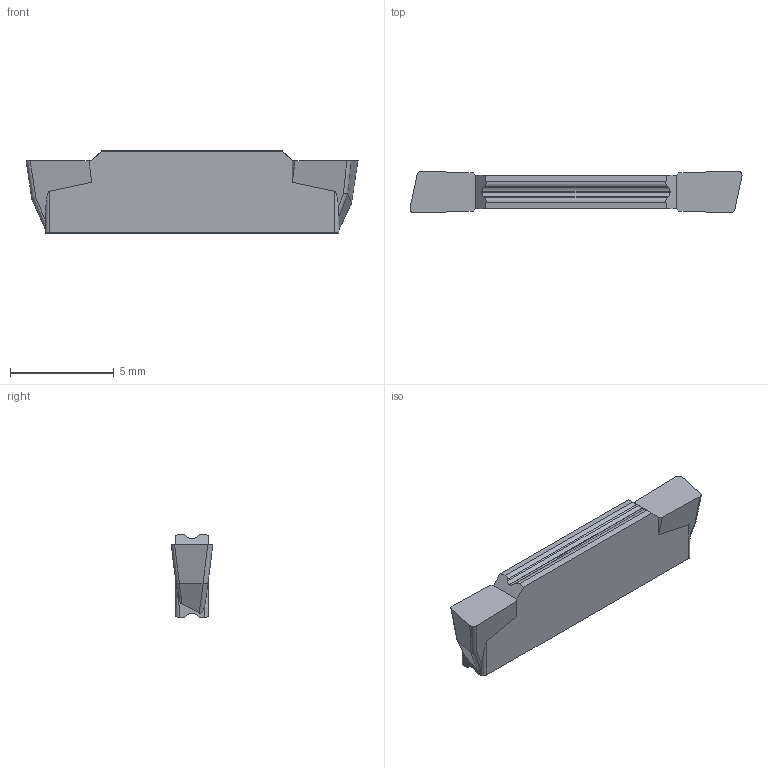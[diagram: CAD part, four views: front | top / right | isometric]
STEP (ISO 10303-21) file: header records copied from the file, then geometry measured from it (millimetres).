
FILE_DESCRIPTION(/* description */ (''),/* implementation_level */ '2;1');
FILE_NAME(/* name */ 'C:/Users/bsingh/Desktop/RE-INGEST LATHE TOOLING/Grooving_Tools/Grooving tools solid models/02-0488_HCMR_200-6D.step',/* time_stamp */ '2022-09-30T08:28:48-07:00',/* author */ (''),/* organization */ (''),/* preprocessor_version */ 'ST-DEVELOPER v19',/* originating_system */ 'Autodesk Translation Framework v11.7.0.108',/* authorisation */ '');
FILE_SCHEMA (('AUTOMOTIVE_DESIGN { 1 0 10303 214 3 1 1 }'));
Length unit declared in the file: millimetre
Products named in the file (1): 02-0488_HCMR_200-6D
Bounding box: 16 x 2.01 x 4 mm (x, y, z)
Volume: 90 mm3; surface area: 176.5 mm2
Topology: 1 solids, 3 shells, 58 faces, 152 edges, 100 vertices
Faces by surface type: plane 32, bspline 14, cylinder 12
Entity records: 2849 total; most frequent: CARTESIAN_POINT 1481, ORIENTED_EDGE 304, DIRECTION 230, EDGE_CURVE 152, VERTEX_POINT 100, LINE 84, VECTOR 84, AXIS2_PLACEMENT_3D 73
